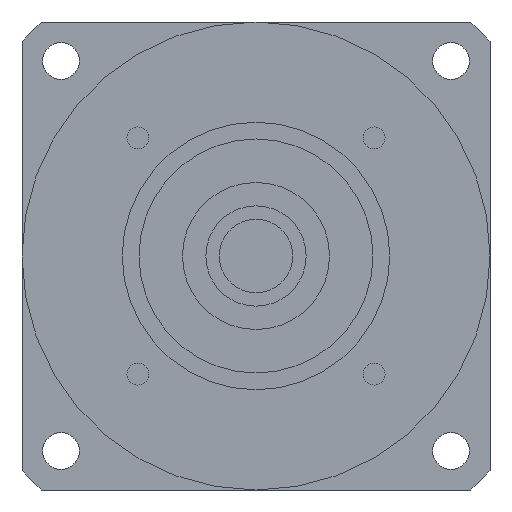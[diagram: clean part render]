
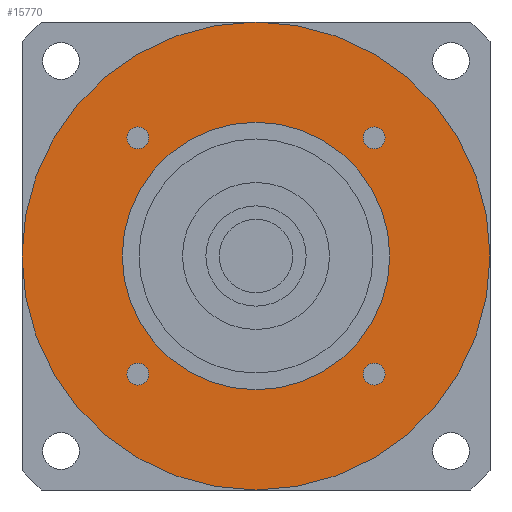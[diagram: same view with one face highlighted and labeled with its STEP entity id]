
A CAD part, left-side view. The second image highlights one B-rep face of the part: STEP entity #15770.
In plain terms, the highlighted planar face has unit normal (-1, 0, 0) as drawn and (0, 0, -1) by its records, which use the part's own axes.
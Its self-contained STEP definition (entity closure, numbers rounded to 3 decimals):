
#14650=CARTESIAN_POINT('',(70.,0.,-59.701));
#14660=VERTEX_POINT('',#14650);
#14690=CARTESIAN_POINT('',(0.,0.,
-59.701));
#14700=DIRECTION('',(0.,0.,-1.));
#14710=DIRECTION('',(-1.,0.,0.));
#14720=AXIS2_PLACEMENT_3D('',#14690,#14700,#14710);
#14730=CIRCLE('',#14720,70.);
#14740=CARTESIAN_POINT('',(-70.,0.,-59.701));
#14750=VERTEX_POINT('',#14740);
#14760=EDGE_CURVE('',#14660,#14750,#14730,.T.);
#14880=CARTESIAN_POINT('',(0.,0.,
-59.701));
#14890=DIRECTION('',(0.,0.,-1.));
#14900=DIRECTION('',(1.,0.,0.));
#14910=AXIS2_PLACEMENT_3D('',#14880,#14890,#14900);
#14920=PLANE('',#14910);
#14930=CARTESIAN_POINT('',(35.355,-35.355,-59.701));
#14940=DIRECTION('',(0.,0.,-1.));
#14950=DIRECTION('',(1.,0.,0.));
#14960=AXIS2_PLACEMENT_3D('',#14930,#14940,#14950);
#14970=CIRCLE('',#14960,3.25);
#14980=CARTESIAN_POINT('',(38.605,-35.355,-59.701));
#14990=VERTEX_POINT('',#14980);
#15000=CARTESIAN_POINT('',(32.105,-35.355,-59.701));
#15010=VERTEX_POINT('',#15000);
#15020=EDGE_CURVE('',#14990,#15010,#14970,.T.);
#15030=ORIENTED_EDGE('',*,*,#15020,.F.);
#15040=EDGE_CURVE('',#15010,#14990,#14970,.T.);
#15050=ORIENTED_EDGE('',*,*,#15040,.F.);
#15060=EDGE_LOOP('',(#15050,#15030));
#15070=FACE_BOUND('',#15060,.T.);
#15080=CARTESIAN_POINT('',(35.355,35.355,-59.701));
#15090=DIRECTION('',(0.,0.,-1.));
#15100=DIRECTION('',(0.,1.,0.));
#15110=AXIS2_PLACEMENT_3D('',#15080,#15090,#15100);
#15120=CIRCLE('',#15110,3.25);
#15130=CARTESIAN_POINT('',(35.355,38.605,-59.701));
#15140=VERTEX_POINT('',#15130);
#15150=CARTESIAN_POINT('',(35.355,32.105,-59.701));
#15160=VERTEX_POINT('',#15150);
#15170=EDGE_CURVE('',#15140,#15160,#15120,.T.);
#15180=ORIENTED_EDGE('',*,*,#15170,.F.);
#15190=EDGE_CURVE('',#15160,#15140,#15120,.T.);
#15200=ORIENTED_EDGE('',*,*,#15190,.F.);
#15210=EDGE_LOOP('',(#15200,#15180));
#15220=FACE_BOUND('',#15210,.T.);
#15230=CARTESIAN_POINT('',(-35.355,35.355,-59.701));
#15240=DIRECTION('',(0.,0.,-1.));
#15250=DIRECTION('',(-1.,0.,0.));
#15260=AXIS2_PLACEMENT_3D('',#15230,#15240,#15250);
#15270=CIRCLE('',#15260,3.25);
#15280=CARTESIAN_POINT('',(-38.605,35.355,-59.701));
#15290=VERTEX_POINT('',#15280);
#15300=CARTESIAN_POINT('',(-32.105,35.355,-59.701));
#15310=VERTEX_POINT('',#15300);
#15320=EDGE_CURVE('',#15290,#15310,#15270,.T.);
#15330=ORIENTED_EDGE('',*,*,#15320,.F.);
#15340=EDGE_CURVE('',#15310,#15290,#15270,.T.);
#15350=ORIENTED_EDGE('',*,*,#15340,.F.);
#15360=EDGE_LOOP('',(#15350,#15330));
#15370=FACE_BOUND('',#15360,.T.);
#15380=CARTESIAN_POINT('',(-35.355,-35.355,-59.701))
;
#15390=DIRECTION('',(0.,0.,-1.));
#15400=DIRECTION('',(0.,-1.,0.));
#15410=AXIS2_PLACEMENT_3D('',#15380,#15390,#15400);
#15420=CIRCLE('',#15410,3.25);
#15430=CARTESIAN_POINT('',(-35.355,-38.605,-59.701))
;
#15440=VERTEX_POINT('',#15430);
#15450=CARTESIAN_POINT('',(-35.355,-32.105,-59.701))
;
#15460=VERTEX_POINT('',#15450);
#15470=EDGE_CURVE('',#15440,#15460,#15420,.T.);
#15480=ORIENTED_EDGE('',*,*,#15470,.F.);
#15490=EDGE_CURVE('',#15460,#15440,#15420,.T.);
#15500=ORIENTED_EDGE('',*,*,#15490,.F.);
#15510=EDGE_LOOP('',(#15500,#15480));
#15520=FACE_BOUND('',#15510,.T.);
#15530=CARTESIAN_POINT('',(0.,0.,
-59.701));
#15540=DIRECTION('',(0.,0.,1.));
#15550=DIRECTION('',(0.,1.,0.));
#15560=AXIS2_PLACEMENT_3D('',#15530,#15540,#15550);
#15570=CIRCLE('',#15560,40.);
#15580=CARTESIAN_POINT('',(-40.,0.,-59.701));
#15590=VERTEX_POINT('',#15580);
#15600=CARTESIAN_POINT('',(40.,0.,-59.701));
#15610=VERTEX_POINT('',#15600);
#15620=EDGE_CURVE('',#15590,#15610,#15570,.T.);
#15630=ORIENTED_EDGE('',*,*,#15620,.T.);
#15640=CARTESIAN_POINT('',(0.,40.,-59.701));
#15650=VERTEX_POINT('',#15640);
#15660=EDGE_CURVE('',#15650,#15590,#15570,.T.);
#15670=ORIENTED_EDGE('',*,*,#15660,.T.);
#15680=EDGE_CURVE('',#15610,#15650,#15570,.T.);
#15690=ORIENTED_EDGE('',*,*,#15680,.T.);
#15700=EDGE_LOOP('',(#15690,#15670,#15630));
#15710=FACE_BOUND('',#15700,.T.);
#15720=EDGE_CURVE('',#14750,#14660,#14730,.T.);
#15730=ORIENTED_EDGE('',*,*,#15720,.T.);
#15740=ORIENTED_EDGE('',*,*,#14760,.T.);
#15750=EDGE_LOOP('',(#15740,#15730));
#15760=FACE_OUTER_BOUND('',#15750,.T.);
#15770=ADVANCED_FACE('',(#15070,#15220,#15370,#15520,#15710,#15760),
#14920,.T.);
